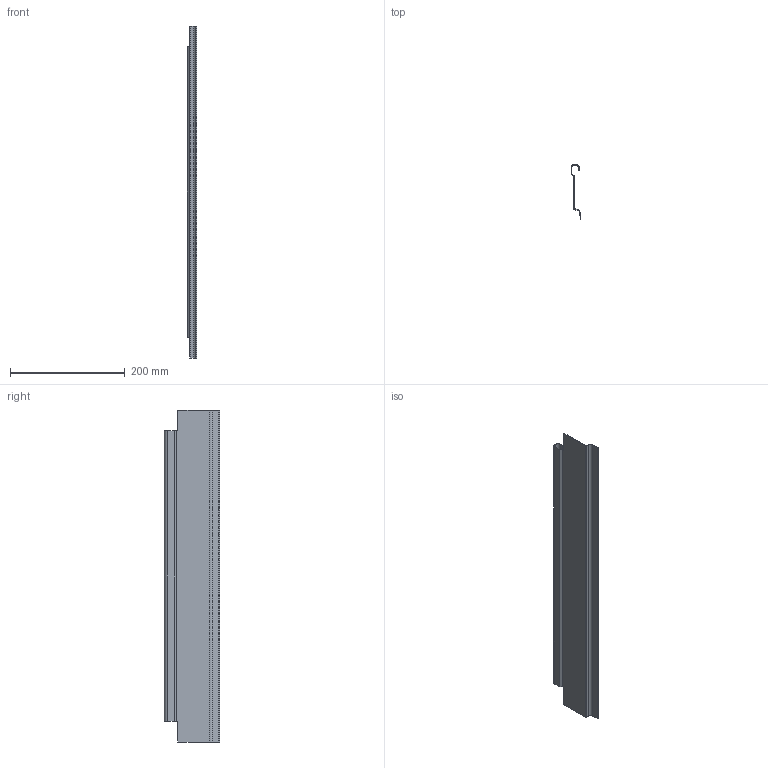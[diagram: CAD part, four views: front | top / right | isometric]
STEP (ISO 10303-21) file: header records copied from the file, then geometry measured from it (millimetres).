
FILE_DESCRIPTION (( 'STEP AP214' ), '1' );
FILE_NAME ('_Solowing NL610.step', '2010-07-14T13:31:59', ( 'grass' ), ( '' ), 'SwSTEP 2.0', 'SolidWorks 2010', '' );
FILE_SCHEMA (( 'AUTOMOTIVE_DESIGN' ));
Length unit declared in the file: millimetre
Products named in the file (1): _Solowing NL610
Bounding box: 16.3 x 96 x 578 mm (x, y, z)
Volume: 54708.5 mm3; surface area: 137894.3 mm2
Topology: 1 solids, 1 shells, 46 faces, 108 edges, 64 vertices
Faces by surface type: plane 36, cylinder 10
Entity records: 1314 total; most frequent: DIRECTION 222, CARTESIAN_POINT 219, ORIENTED_EDGE 216, EDGE_CURVE 108, LINE 88, VECTOR 88, AXIS2_PLACEMENT_3D 67, VERTEX_POINT 64
